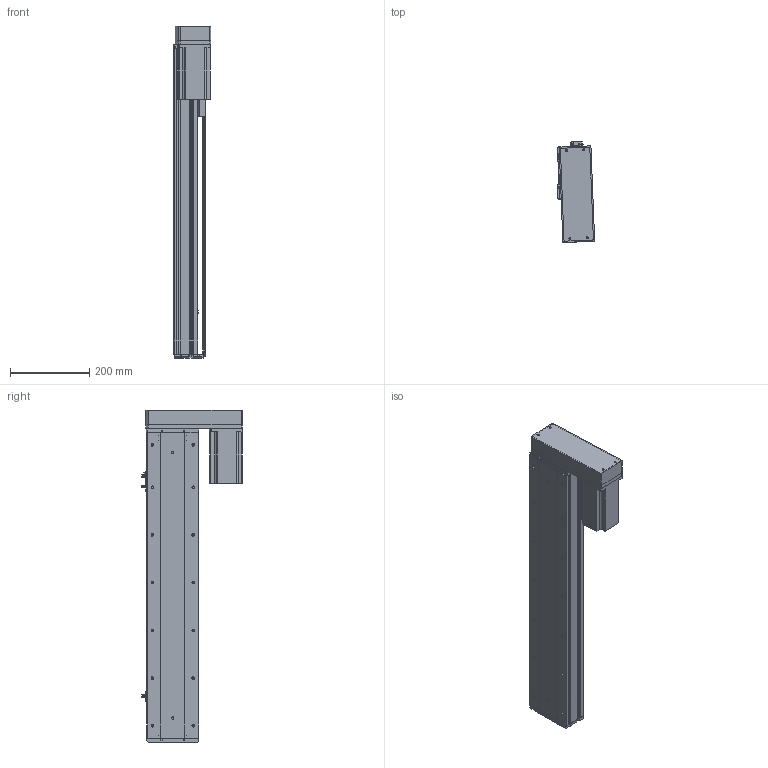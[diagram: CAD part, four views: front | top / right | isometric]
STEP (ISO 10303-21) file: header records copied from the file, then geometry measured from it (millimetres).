
FILE_DESCRIPTION (( 'STEP AP214' ), '1' );
FILE_NAME ('KSD130-P2010-S550-MR-CM.STEP', '2019-09-17T07:44:50', ( '微软用户' ), ( '微软中国' ), 'SwSTEP 2.0', 'SolidWorks 2014', '' );
FILE_SCHEMA (( 'AUTOMOTIVE_DESIGN' ));
Length unit declared in the file: millimetre
Products named in the file (11): 130宽马达安装板半封闭; 130遵傷裔圉猾敕; 130宽底板半封闭丝杠-550行程; KSD130-P2010-S550-MR-CM; 130宽模组保护罩左右折; 台达ECMA－C20807AS伺服电机; 130宽模组马达安装板连板左右折丝杆; U倰嫖萇EEㄜSX672; 覜茼え100遵圉猾敕; 130宽盖板半封闭丝杠-550行程; 130宽滚珠丝杆安装板半封闭-20丝杠
Assembly tree (12 placements, depth 2):
  KSD130-P2010-S550-MR-CM
    130宽底板半封闭丝杠-550行程
    130遵傷裔圉猾敕
    130宽马达安装板半封闭
    130宽滚珠丝杆安装板半封闭-20丝杠
    130宽盖板半封闭丝杠-550行程
    覜茼え100遵圉猾敕
    U倰嫖萇EEㄜSX672  x3
    130宽模组马达安装板连板左右折丝杆
    台达ECMA－C20807AS伺服电机
    130宽模组保护罩左右折
Bounding box: 93.81 x 254.01 x 835.5 mm (x, y, z)
Volume: 3574275.8 mm3; surface area: 955802.7 mm2
Topology: 13 solids, 13 shells, 1300 faces, 3657 edges, 2337 vertices
Faces by surface type: cylinder 611, plane 554, cone 135
Entity records: 42003 total; most frequent: CARTESIAN_POINT 7804, DIRECTION 6219, ORIENTED_EDGE 6010, EDGE_CURVE 3005, AXIS2_PLACEMENT_3D 2244, VERTEX_POINT 1961, VECTOR 1731, LINE 1731
